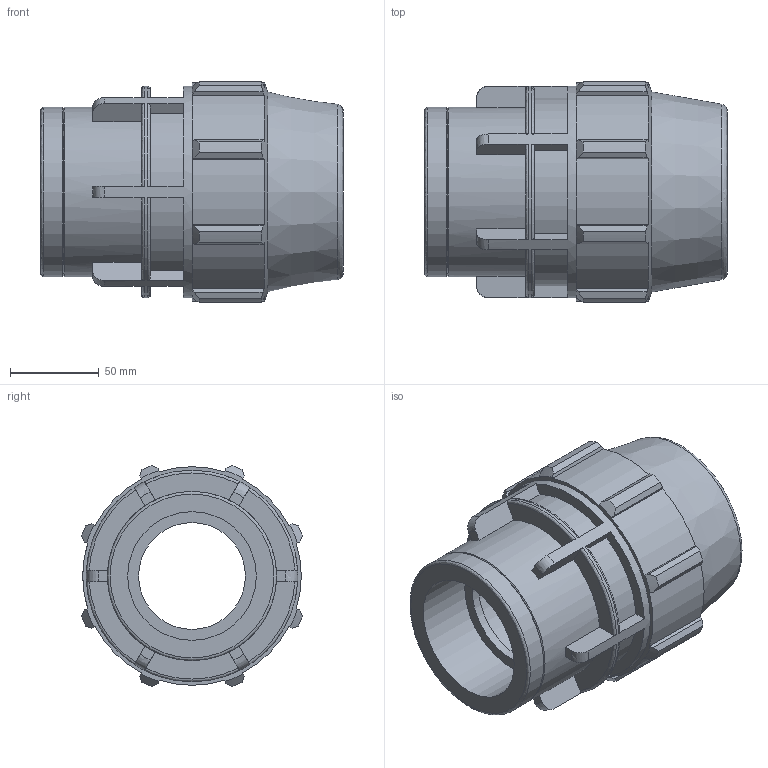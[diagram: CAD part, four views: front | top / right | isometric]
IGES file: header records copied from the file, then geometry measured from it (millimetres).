
Global section: file name: 0703060750250A.ipt; native system: Autodesk Inventor 2015; preprocessor: unknown; author: KIM; date: 20180325.201149; units: millimetre
Bounding box: 170 x 124.2 x 124.2 mm (x, y, z)
Volume: 826669.1 mm3; surface area: 124059 mm2
Topology: 1 solids, 1 shells, 148 faces, 413 edges, 277 vertices
Faces by surface type: plane 86, revolution 25, cylinder 25, cone 12
Full cylindrical faces by diameter (mm): 95.04 x2, 118.8 x1
